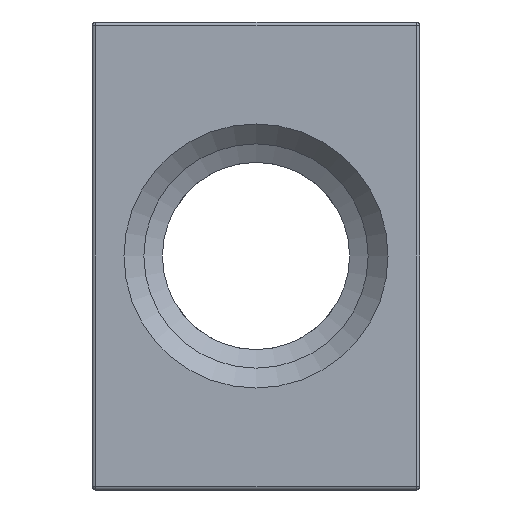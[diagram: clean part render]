
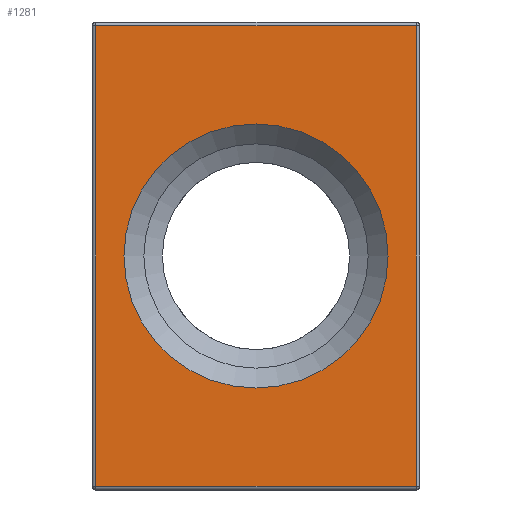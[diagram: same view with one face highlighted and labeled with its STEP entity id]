
A CAD part, left-side view. The second image highlights one B-rep face of the part: STEP entity #1281.
In plain terms, the highlighted planar face has unit normal (-1, 0, 0).
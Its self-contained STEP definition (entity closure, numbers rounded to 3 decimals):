
#72=FACE_BOUND('',#387,.T.);
#89=PLANE('',#1413);
#94=LINE('',#1993,#167);
#99=LINE('',#2022,#172);
#104=LINE('',#2029,#177);
#106=LINE('',#2032,#179);
#167=VECTOR('',#1576,10.);
#172=VECTOR('',#1611,10.);
#177=VECTOR('',#1620,10.);
#179=VECTOR('',#1624,10.);
#298=FACE_OUTER_BOUND('',#386,.T.);
#386=EDGE_LOOP('',(#964,#965,#966,#967));
#387=EDGE_LOOP('',(#968));
#487=CIRCLE('',#1414,11.286);
#553=VERTEX_POINT('',#1961);
#564=VERTEX_POINT('',#1988);
#567=VERTEX_POINT('',#1998);
#571=VERTEX_POINT('',#2015);
#587=VERTEX_POINT('',#2076);
#688=EDGE_CURVE('',#553,#564,#94,.T.);
#702=EDGE_CURVE('',#571,#567,#99,.T.);
#707=EDGE_CURVE('',#564,#571,#104,.T.);
#709=EDGE_CURVE('',#567,#553,#106,.T.);
#731=EDGE_CURVE('',#587,#587,#487,.T.);
#964=ORIENTED_EDGE('',*,*,#702,.F.);
#965=ORIENTED_EDGE('',*,*,#707,.F.);
#966=ORIENTED_EDGE('',*,*,#688,.F.);
#967=ORIENTED_EDGE('',*,*,#709,.F.);
#968=ORIENTED_EDGE('',*,*,#731,.F.);
#1281=ADVANCED_FACE('',(#298,#72),#89,.T.);
#1413=AXIS2_PLACEMENT_3D('',#2075,#1675,#1676);
#1414=AXIS2_PLACEMENT_3D('',#2077,#1677,#1678);
#1576=DIRECTION('',(0.,1.,0.));
#1611=DIRECTION('',(0.,-1.,0.));
#1620=DIRECTION('',(0.,0.,1.));
#1624=DIRECTION('',(0.,0.,-1.));
#1675=DIRECTION('center_axis',(-1.,0.,0.));
#1676=DIRECTION('ref_axis',(0.,0.,1.));
#1677=DIRECTION('center_axis',(-1.,0.,0.));
#1678=DIRECTION('ref_axis',(0.,1.,0.));
#1961=CARTESIAN_POINT('',(-105.,-13.7,-19.7));
#1988=CARTESIAN_POINT('',(-105.,13.7,-19.7));
#1993=CARTESIAN_POINT('',(-105.,0.,-19.7));
#1998=CARTESIAN_POINT('',(-105.,-13.7,19.7));
#2015=CARTESIAN_POINT('',(-105.,13.7,19.7));
#2022=CARTESIAN_POINT('',(-105.,0.,19.7));
#2029=CARTESIAN_POINT('',(-105.,13.7,-10.));
#2032=CARTESIAN_POINT('',(-105.,-13.7,-10.));
#2075=CARTESIAN_POINT('Origin',(-105.,0.,-20.));
#2076=CARTESIAN_POINT('',(-105.,-11.286,0.));
#2077=CARTESIAN_POINT('Origin',(-105.,0.,0.));
